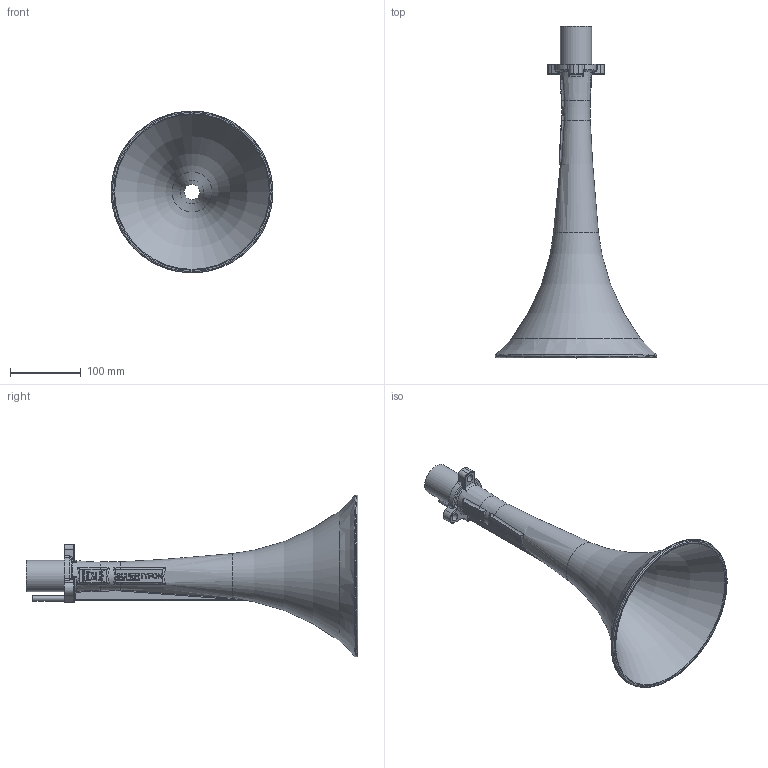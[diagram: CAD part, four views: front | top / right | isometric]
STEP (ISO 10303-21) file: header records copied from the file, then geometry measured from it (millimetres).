
FILE_DESCRIPTION(/* description */ (''),/* implementation_level */ '2;1');
FILE_NAME(/* name */ 'E:/hidden/Engineering Projects/Leslie Controls SuperTyfon/CAD/Components/27577 #31 Horn, Complete.step',/* time_stamp */ '2022-08-18T19:37:51+10:00',/* author */ (''),/* organization */ (''),/* preprocessor_version */ 'ST-DEVELOPER v19',/* originating_system */ 'Autodesk Translation Framework v11.7.0.108',/* authorisation */ '');
FILE_SCHEMA (('AUTOMOTIVE_DESIGN { 1 0 10303 214 3 1 1 }'));
Length unit declared in the file: inch
Products named in the file (3): #24376; #24377; #24378
Assembly tree (2 placements, depth 2):
  #24376
    #24377
    #24378
Bounding box: 228.6 x 469.11 x 228.6 mm (x, y, z)
Volume: 497438.8 mm3; surface area: 249142.7 mm2
Topology: 2 solids, 2 shells, 548 faces, 1493 edges, 952 vertices
Faces by surface type: bspline 218, plane 195, cone 58, cylinder 45, torus 28, sphere 4
Full cylindrical faces by diameter (mm): 2.778 x1, 6.35 x1, 7.938 x1, 7.987 x1, 11.112 x3, 44.45 x1, 228.6 x1
Entity records: 24390 total; most frequent: CARTESIAN_POINT 12159, ORIENTED_EDGE 2940, DIRECTION 1822, EDGE_CURVE 1470, VERTEX_POINT 952, AXIS2_PLACEMENT_3D 613, LINE 596, VECTOR 596
